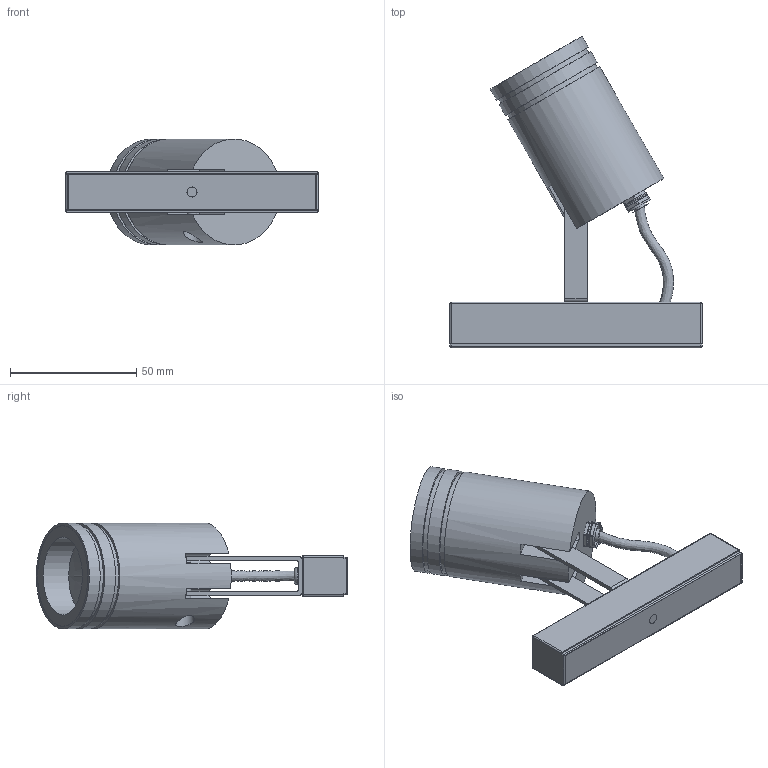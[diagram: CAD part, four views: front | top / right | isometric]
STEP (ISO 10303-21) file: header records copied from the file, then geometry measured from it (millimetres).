
FILE_DESCRIPTION(/* description */ (''),/* implementation_level */ '2;1');
FILE_NAME(/* name */ 'C:/Elena/ILM/02 3D/Corallino/Pubblico/Corallino BBT.step',/* time_stamp */ '2020-05-27T12:29:29+02:00',/* author */ (''),/* organization */ (''),/* preprocessor_version */ 'ST-DEVELOPER v18.1',/* originating_system */ 'Autodesk Translation Framework v9.3.0.1241',/* authorisation */ '');
FILE_SCHEMA (('AUTOMOTIVE_DESIGN { 1 0 10303 214 3 1 1 }'));
Products named in the file (1): Corallino BBT
Bounding box: 100 x 123.44 x 42 mm (x, y, z)
Volume: 84993.5 mm3; surface area: 39850 mm2
Topology: 6 solids, 6 shells, 282 faces, 757 edges, 509 vertices
Faces by surface type: cylinder 146, plane 85, bspline 32, sphere 8, cone 6, torus 5
Full cylindrical faces by diameter (mm): 2.529 x11, 3.086 x11, 3.332 x13, 4 x5, 4.109 x13, 5 x1, 7 x2, 7.5 x1, 10.127 x1, 26 x1, 28 x1, 31 x2, 32 x1, 33 x1, 38 x2, 39.8 x1, 40 x3, 42 x3
Entity records: 37557 total; most frequent: CARTESIAN_POINT 30877, ORIENTED_EDGE 1510, DIRECTION 1159, EDGE_CURVE 755, VERTEX_POINT 509, AXIS2_PLACEMENT_3D 434, EDGE_LOOP 316, LINE 291
